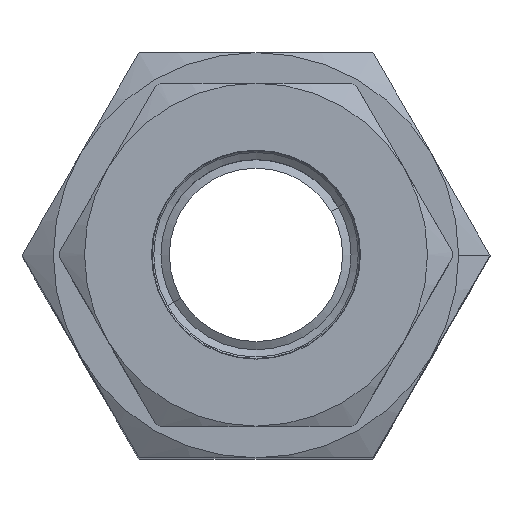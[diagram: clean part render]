
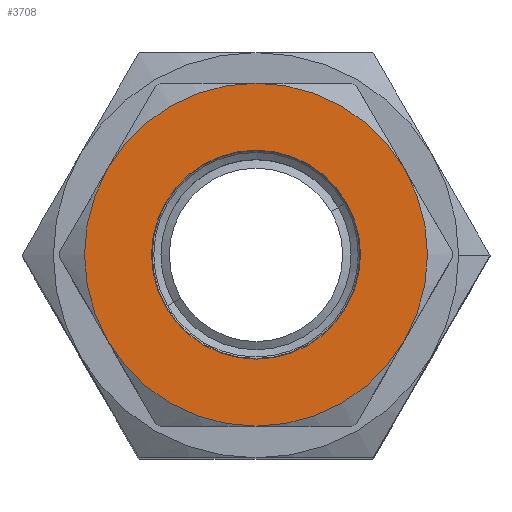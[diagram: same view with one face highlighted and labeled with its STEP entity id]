
A CAD part, top view. The second image highlights one B-rep face of the part: STEP entity #3708.
In plain terms, the highlighted planar face has unit normal (0, 0, 1).
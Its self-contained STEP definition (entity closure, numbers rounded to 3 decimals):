
#50 = VERTEX_POINT ( 'NONE', #2254 ) ;
#171 = CARTESIAN_POINT ( 'NONE',  ( 0., 0., 122. ) ) ;
#294 = AXIS2_PLACEMENT_3D ( 'NONE', #11415, #2477, #12903 ) ;
#455 = AXIS2_PLACEMENT_3D ( 'NONE', #4169, #18156, #6669 ) ;
#465 = CARTESIAN_POINT ( 'NONE',  ( 0., 0., 122. ) ) ;
#1149 = CIRCLE ( 'NONE', #455, 27.5 ) ;
#1327 = EDGE_CURVE ( 'NONE', #50, #14070, #13657, .T. ) ;
#1692 = DIRECTION ( 'NONE',  ( 0.866, 0.5, 0. ) ) ;
#1956 = EDGE_CURVE ( 'NONE', #16207, #15474, #7830, .T. ) ;
#1962 = ORIENTED_EDGE ( 'NONE', *, *, #18804, .T. ) ;
#1979 = DIRECTION ( 'NONE',  ( 0.866, 0.5, 0. ) ) ;
#2254 = CARTESIAN_POINT ( 'NONE',  ( 14.506, 8.375, 122. ) ) ;
#2312 = CIRCLE ( 'NONE', #4621, 27.5 ) ;
#2477 = DIRECTION ( 'NONE',  ( 0., 0., 1. ) ) ;
#2710 = AXIS2_PLACEMENT_3D ( 'NONE', #19246, #2994, #19186 ) ;
#2994 = DIRECTION ( 'NONE',  ( 0., 0., 1. ) ) ;
#3227 = EDGE_CURVE ( 'NONE', #3681, #16207, #1149, .T. ) ;
#3681 = VERTEX_POINT ( 'NONE', #12906 ) ;
#3708 = ADVANCED_FACE ( 'NONE', ( #8358, #4336 ), #17217, .T. ) ;
#3816 = CIRCLE ( 'NONE', #4594, 27.5 ) ;
#4031 = AXIS2_PLACEMENT_3D ( 'NONE', #13266, #13245, #11662 ) ;
#4169 = CARTESIAN_POINT ( 'NONE',  ( 0., 0., 122. ) ) ;
#4336 = FACE_OUTER_BOUND ( 'NONE', #5162, .T. ) ;
#4594 = AXIS2_PLACEMENT_3D ( 'NONE', #171, #10627, #1692 ) ;
#4621 = AXIS2_PLACEMENT_3D ( 'NONE', #465, #10918, #1979 ) ;
#4714 = ORIENTED_EDGE ( 'NONE', *, *, #3227, .T. ) ;
#5162 = EDGE_LOOP ( 'NONE', ( #4714, #16224, #16199, #1962, #18923, #8569 ) ) ;
#5636 = CARTESIAN_POINT ( 'NONE',  ( 23.816, -13.75, 122. ) ) ;
#5689 = DIRECTION ( 'NONE',  ( 0., 0., -1. ) ) ;
#6000 = EDGE_CURVE ( 'NONE', #14070, #50, #18194, .T. ) ;
#6199 = DIRECTION ( 'NONE',  ( 0., 0., 1. ) ) ;
#6511 = AXIS2_PLACEMENT_3D ( 'NONE', #18099, #5689, #12367 ) ;
#6669 = DIRECTION ( 'NONE',  ( 0.866, 0.5, 0. ) ) ;
#7830 = CIRCLE ( 'NONE', #4031, 27.5 ) ;
#7938 = CARTESIAN_POINT ( 'NONE',  ( 0., 0., 122. ) ) ;
#8052 = DIRECTION ( 'NONE',  ( 0.866, 0.5, 0. ) ) ;
#8278 = DIRECTION ( 'NONE',  ( 0., 0., -1. ) ) ;
#8358 = FACE_BOUND ( 'NONE', #10997, .T. ) ;
#8569 = ORIENTED_EDGE ( 'NONE', *, *, #16354, .T. ) ;
#8856 = VERTEX_POINT ( 'NONE', #14282 ) ;
#10157 = CARTESIAN_POINT ( 'NONE',  ( 0., 27.5, 122. ) ) ;
#10627 = DIRECTION ( 'NONE',  ( 0., 0., 1. ) ) ;
#10918 = DIRECTION ( 'NONE',  ( 0., 0., 1. ) ) ;
#10997 = EDGE_LOOP ( 'NONE', ( #18133, #13675 ) ) ;
#11415 = CARTESIAN_POINT ( 'NONE',  ( 0., 0., 122. ) ) ;
#11662 = DIRECTION ( 'NONE',  ( 0.866, 0.5, 0. ) ) ;
#11806 = EDGE_CURVE ( 'NONE', #15474, #8856, #11878, .T. ) ;
#11878 = CIRCLE ( 'NONE', #294, 27.5 ) ;
#11960 = AXIS2_PLACEMENT_3D ( 'NONE', #7938, #8278, #8052 ) ;
#12367 = DIRECTION ( 'NONE',  ( 0.866, 0.5, 0. ) ) ;
#12719 = CARTESIAN_POINT ( 'NONE',  ( -14.506, -8.375, 122. ) ) ;
#12903 = DIRECTION ( 'NONE',  ( 0.866, 0.5, 0. ) ) ;
#12906 = CARTESIAN_POINT ( 'NONE',  ( 23.816, 13.75, 122. ) ) ;
#13245 = DIRECTION ( 'NONE',  ( 0., 0., 1. ) ) ;
#13266 = CARTESIAN_POINT ( 'NONE',  ( 0., 0., 122. ) ) ;
#13657 = CIRCLE ( 'NONE', #6511, 16.75 ) ;
#13675 = ORIENTED_EDGE ( 'NONE', *, *, #6000, .T. ) ;
#13789 = CARTESIAN_POINT ( 'NONE',  ( 0., -27.5, 122. ) ) ;
#14070 = VERTEX_POINT ( 'NONE', #12719 ) ;
#14282 = CARTESIAN_POINT ( 'NONE',  ( -23.816, -13.75, 122. ) ) ;
#14462 = CIRCLE ( 'NONE', #16985, 27.5 ) ;
#14900 = CARTESIAN_POINT ( 'NONE',  ( -23.816, 13.75, 122. ) ) ;
#14935 = EDGE_CURVE ( 'NONE', #14990, #17299, #14462, .T. ) ;
#14990 = VERTEX_POINT ( 'NONE', #13789 ) ;
#15186 = CARTESIAN_POINT ( 'NONE',  ( 0., 0., 122. ) ) ;
#15474 = VERTEX_POINT ( 'NONE', #14900 ) ;
#16199 = ORIENTED_EDGE ( 'NONE', *, *, #11806, .T. ) ;
#16207 = VERTEX_POINT ( 'NONE', #10157 ) ;
#16224 = ORIENTED_EDGE ( 'NONE', *, *, #1956, .T. ) ;
#16354 = EDGE_CURVE ( 'NONE', #17299, #3681, #3816, .T. ) ;
#16654 = DIRECTION ( 'NONE',  ( 0.866, 0.5, 0. ) ) ;
#16985 = AXIS2_PLACEMENT_3D ( 'NONE', #15186, #6199, #16654 ) ;
#17217 = PLANE ( 'NONE',  #2710 ) ;
#17299 = VERTEX_POINT ( 'NONE', #5636 ) ;
#18099 = CARTESIAN_POINT ( 'NONE',  ( 0., 0., 122. ) ) ;
#18133 = ORIENTED_EDGE ( 'NONE', *, *, #1327, .T. ) ;
#18156 = DIRECTION ( 'NONE',  ( 0., 0., 1. ) ) ;
#18194 = CIRCLE ( 'NONE', #11960, 16.75 ) ;
#18804 = EDGE_CURVE ( 'NONE', #8856, #14990, #2312, .T. ) ;
#18923 = ORIENTED_EDGE ( 'NONE', *, *, #14935, .T. ) ;
#19186 = DIRECTION ( 'NONE',  ( 0.866, 0.5, 0. ) ) ;
#19246 = CARTESIAN_POINT ( 'NONE',  ( 0., 0., 122. ) ) ;
